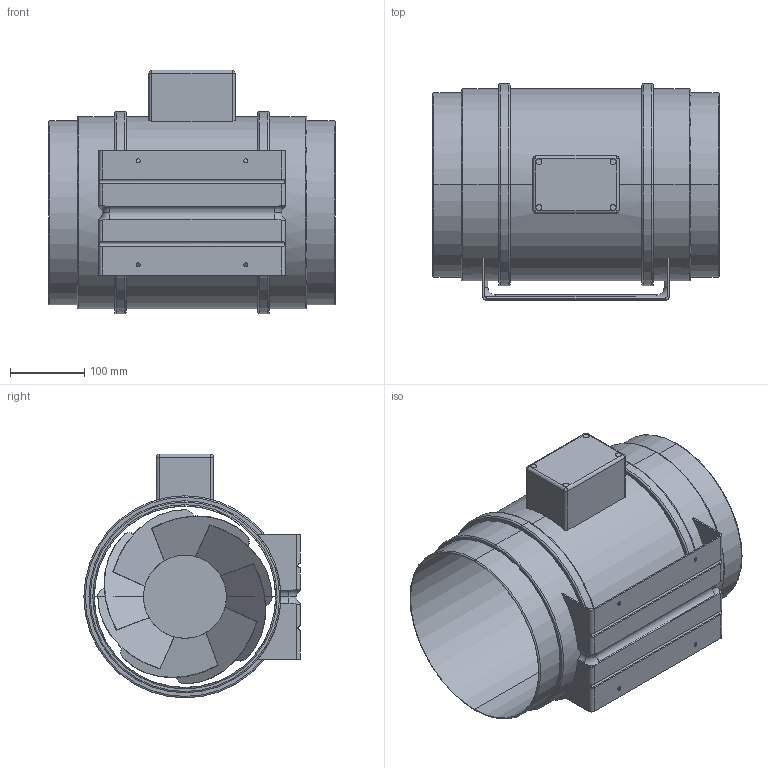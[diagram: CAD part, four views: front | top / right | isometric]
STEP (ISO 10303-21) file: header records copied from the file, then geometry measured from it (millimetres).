
FILE_DESCRIPTION(('STEP AP214'),'1');
FILE_NAME('fan_5211321500.stp','2017-03-31T12:38:37',('TraceParts'),('TraceParts S.A.'),'Spatial InterOp 3D',' ',' ');
FILE_SCHEMA(('automotive_design'));
Length unit declared in the file: millimetre
Products named in the file (1): fan_5211321500
Bounding box: 386 x 291 x 328 mm (x, y, z)
Volume: 3529273.2 mm3; surface area: 942708.1 mm2
Topology: 1 solids, 1 shells, 195 faces, 538 edges, 349 vertices
Faces by surface type: cylinder 90, plane 73, torus 28, sphere 4
Entity records: 10617 total; most frequent: CARTESIAN_POINT 3973, DIRECTION 1101, ORIENTED_EDGE 1068, EDGE_CURVE 534, AXIS2_PLACEMENT_3D 455, VERTEX_POINT 349, EDGE_LOOP 221, CIRCLE 219
